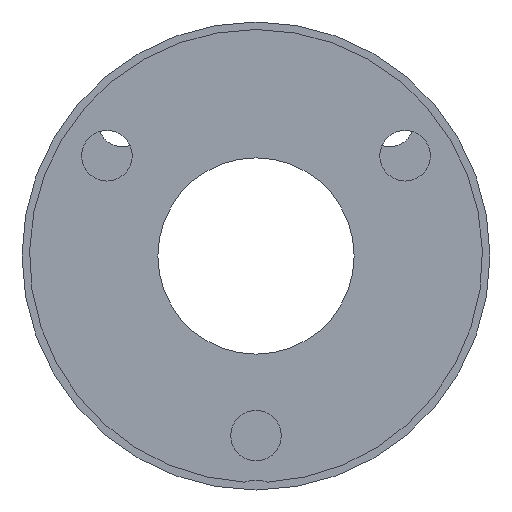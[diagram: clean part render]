
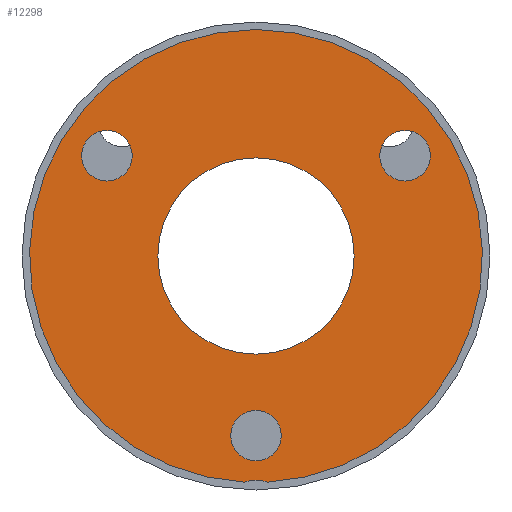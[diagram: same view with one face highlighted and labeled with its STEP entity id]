
A CAD part, front view. The second image highlights one B-rep face of the part: STEP entity #12298.
In plain terms, the highlighted planar face has unit normal (0, -1, 0).
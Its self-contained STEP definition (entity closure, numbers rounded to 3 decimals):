
#742=PLANE('',#13377);
#998=FACE_BOUND('',#2395,.T.);
#999=FACE_BOUND('',#2396,.T.);
#1000=FACE_BOUND('',#2397,.T.);
#1001=FACE_BOUND('',#2398,.T.);
#1665=FACE_OUTER_BOUND('',#2394,.T.);
#2394=EDGE_LOOP('',(#11561,#11562));
#2395=EDGE_LOOP('',(#11563,#11564));
#2396=EDGE_LOOP('',(#11565,#11566));
#2397=EDGE_LOOP('',(#11567,#11568));
#2398=EDGE_LOOP('',(#11569,#11570));
#2632=CIRCLE('',#13327,4.417);
#2639=CIRCLE('',#13336,30.);
#2640=CIRCLE('',#13338,3.35);
#2641=CIRCLE('',#13339,3.35);
#2642=CIRCLE('',#13341,3.35);
#2643=CIRCLE('',#13342,3.35);
#2644=CIRCLE('',#13344,3.35);
#2645=CIRCLE('',#13345,3.35);
#2664=CIRCLE('',#13375,13.);
#2665=CIRCLE('',#13376,13.);
#6008=VERTEX_POINT('',#27632);
#6009=VERTEX_POINT('',#27634);
#6015=VERTEX_POINT('',#27652);
#6016=VERTEX_POINT('',#27653);
#6017=VERTEX_POINT('',#27658);
#6018=VERTEX_POINT('',#27659);
#6019=VERTEX_POINT('',#27664);
#6020=VERTEX_POINT('',#27665);
#6037=VERTEX_POINT('',#27718);
#6038=VERTEX_POINT('',#27720);
#7840=EDGE_CURVE('',#6009,#6008,#2632,.T.);
#7848=EDGE_CURVE('',#6009,#6008,#2639,.T.);
#7849=EDGE_CURVE('',#6015,#6016,#2640,.T.);
#7850=EDGE_CURVE('',#6016,#6015,#2641,.T.);
#7852=EDGE_CURVE('',#6017,#6018,#2642,.T.);
#7853=EDGE_CURVE('',#6018,#6017,#2643,.T.);
#7855=EDGE_CURVE('',#6019,#6020,#2644,.T.);
#7856=EDGE_CURVE('',#6020,#6019,#2645,.T.);
#7881=EDGE_CURVE('',#6038,#6037,#2664,.T.);
#7882=EDGE_CURVE('',#6037,#6038,#2665,.T.);
#11561=ORIENTED_EDGE('',*,*,#7840,.T.);
#11562=ORIENTED_EDGE('',*,*,#7848,.F.);
#11563=ORIENTED_EDGE('',*,*,#7849,.T.);
#11564=ORIENTED_EDGE('',*,*,#7850,.T.);
#11565=ORIENTED_EDGE('',*,*,#7852,.T.);
#11566=ORIENTED_EDGE('',*,*,#7853,.T.);
#11567=ORIENTED_EDGE('',*,*,#7855,.T.);
#11568=ORIENTED_EDGE('',*,*,#7856,.T.);
#11569=ORIENTED_EDGE('',*,*,#7881,.T.);
#11570=ORIENTED_EDGE('',*,*,#7882,.T.);
#12298=ADVANCED_FACE('',(#1665,#998,#999,#1000,#1001),#742,.T.);
#13327=AXIS2_PLACEMENT_3D('',#27635,#16266,#16267);
#13336=AXIS2_PLACEMENT_3D('',#27650,#16285,#16286);
#13338=AXIS2_PLACEMENT_3D('',#27654,#16289,#16290);
#13339=AXIS2_PLACEMENT_3D('',#27655,#16291,#16292);
#13341=AXIS2_PLACEMENT_3D('',#27660,#16296,#16297);
#13342=AXIS2_PLACEMENT_3D('',#27661,#16298,#16299);
#13344=AXIS2_PLACEMENT_3D('',#27666,#16303,#16304);
#13345=AXIS2_PLACEMENT_3D('',#27667,#16305,#16306);
#13375=AXIS2_PLACEMENT_3D('',#27721,#16371,#16372);
#13376=AXIS2_PLACEMENT_3D('',#27722,#16373,#16374);
#13377=AXIS2_PLACEMENT_3D('',#27723,#16375,#16376);
#16266=DIRECTION('center_axis',(0.,1.,0.));
#16267=DIRECTION('ref_axis',(0.34,0.,0.941));
#16285=DIRECTION('center_axis',(0.,1.,0.));
#16286=DIRECTION('ref_axis',(-1.,0.,0.));
#16289=DIRECTION('center_axis',(0.,1.,0.));
#16290=DIRECTION('ref_axis',(1.,0.,0.));
#16291=DIRECTION('center_axis',(0.,1.,0.));
#16292=DIRECTION('ref_axis',(1.,0.,0.));
#16296=DIRECTION('center_axis',(0.,1.,0.));
#16297=DIRECTION('ref_axis',(1.,0.,0.));
#16298=DIRECTION('center_axis',(0.,1.,0.));
#16299=DIRECTION('ref_axis',(1.,0.,0.));
#16303=DIRECTION('center_axis',(0.,1.,0.));
#16304=DIRECTION('ref_axis',(1.,0.,0.));
#16305=DIRECTION('center_axis',(0.,1.,0.));
#16306=DIRECTION('ref_axis',(1.,0.,0.));
#16371=DIRECTION('center_axis',(0.,1.,0.));
#16372=DIRECTION('ref_axis',(-1.,0.,0.));
#16373=DIRECTION('center_axis',(0.,1.,0.));
#16374=DIRECTION('ref_axis',(-1.,0.,0.));
#16375=DIRECTION('center_axis',(0.,-1.,0.));
#16376=DIRECTION('ref_axis',(0.,0.,-1.));
#27632=CARTESIAN_POINT('',(1.5,0.,-29.962));
#27634=CARTESIAN_POINT('',(-1.5,0.,-29.962));
#27635=CARTESIAN_POINT('Origin',(0.,0.,-34.117));
#27650=CARTESIAN_POINT('Origin',(0.,0.,0.));
#27652=CARTESIAN_POINT('',(3.35,0.,-23.8));
#27653=CARTESIAN_POINT('',(-3.35,0.,-23.8));
#27654=CARTESIAN_POINT('Origin',(0.,0.,-23.8));
#27655=CARTESIAN_POINT('Origin',(0.,0.,-23.8));
#27658=CARTESIAN_POINT('',(-16.4,0.,13.281));
#27659=CARTESIAN_POINT('',(-23.1,0.,13.281));
#27660=CARTESIAN_POINT('Origin',(-19.75,0.,13.281));
#27661=CARTESIAN_POINT('Origin',(-19.75,0.,13.281));
#27664=CARTESIAN_POINT('',(23.1,0.,13.281));
#27665=CARTESIAN_POINT('',(16.4,0.,13.281));
#27666=CARTESIAN_POINT('Origin',(19.75,0.,13.281));
#27667=CARTESIAN_POINT('Origin',(19.75,0.,13.281));
#27718=CARTESIAN_POINT('',(13.,0.,0.));
#27720=CARTESIAN_POINT('',(-13.,0.,0.));
#27721=CARTESIAN_POINT('Origin',(0.,0.,0.));
#27722=CARTESIAN_POINT('Origin',(0.,0.,0.));
#27723=CARTESIAN_POINT('Origin',(-21.5,0.,
0.));
